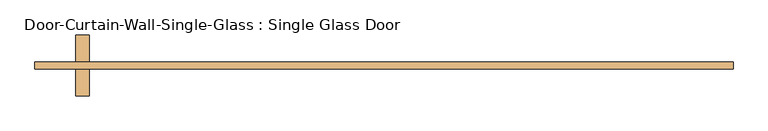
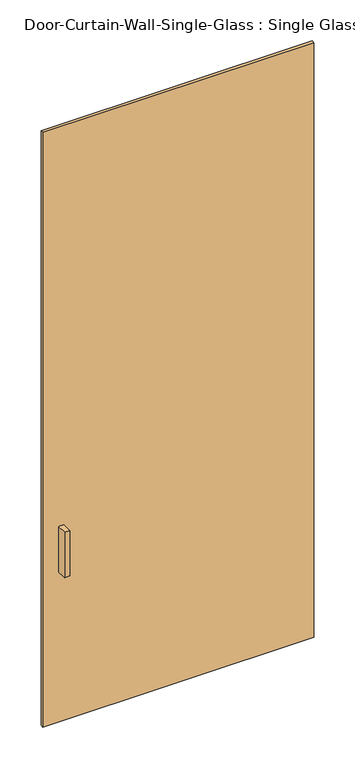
"""IFC4 building model written with IfcOpenShell, lengths in millimetres: door geometry, Door-Curtain-Wall-Single-Glass : Single Glass Door."""

import ifcopenshell
import ifcopenshell.guid

model = None  # the IFC model being written
_history = None  # IfcOwnerHistory: only IFC2X3 demands one
_inside = {}  # id of a spatial element -> (the spatial element, [elements in it])
_under = {}  # id of a project, library or spatial element -> (it, [spatial elements below it])
_declared = {}  # id of a project -> (the project, [libraries it declares])
_typed = {}  # id of a type object -> (the type object, [elements of that type])
_made_of = {}  # id of a material, layer set ... -> (it, [elements and type objects made of it])


def new_model(schema):
    """Start an empty IFC model of exactly this schema.

    Asked for "IFC4X3", IfcOpenShell would pick the latest addendum, in which some entities
    have other attributes; the version numbers below select the first issue.
    IFC2X3 requires an IfcOwnerHistory on every rooted entity: one is made here for all.
    """
    global model, _history
    if schema == "IFC4X3":
        model = ifcopenshell.file(schema_version=(4, 3, 0, 0))
    else:
        model = ifcopenshell.file(schema=schema)
    _inside.clear()
    _under.clear()
    _declared.clear()
    _typed.clear()
    _made_of.clear()
    _history = None
    if model.schema == "IFC2X3":
        org = make("IfcOrganization", Name="unknown")
        user = make(
            "IfcPersonAndOrganization",
            ThePerson=make("IfcPerson", FamilyName="unknown"),
            TheOrganization=org,
        )
        app = make(
            "IfcApplication",
            ApplicationDeveloper=org,
            Version="unknown",
            ApplicationFullName="unknown",
            ApplicationIdentifier="unknown",
        )
        _history = make(
            "IfcOwnerHistory",
            OwningUser=user,
            OwningApplication=app,
            ChangeAction="ADDED",
            CreationDate=0,
        )
    return model


def make(cls, **values):
    """One entity of the class cls with the attributes given. An attribute that is None is left unset."""
    return model.create_entity(
        cls, **{name: value for name, value in values.items() if value is not None}
    )


def rooted(cls, **values):
    """An entity with a GlobalId (a new one), such as an element, a storey or a relation."""
    return make(cls, GlobalId=ifcopenshell.guid.new(), OwnerHistory=_history, **values)


def si_unit(unit_type, name, prefix=None):
    """IfcSIUnit, for example si_unit("LENGTHUNIT", "METRE", prefix="MILLI")."""
    return make("IfcSIUnit", UnitType=unit_type, Prefix=prefix, Name=name)


def assignment(units):
    """IfcUnitAssignment: the units of a project."""
    return None if units is None else make("IfcUnitAssignment", Units=units)


def point(xyz):
    """IfcCartesianPoint."""
    return None if xyz is None else make("IfcCartesianPoint", Coordinates=xyz)


def direction(xyz):
    """IfcDirection."""
    return None if xyz is None else make("IfcDirection", DirectionRatios=xyz)


def frame(location, z_axis=None, x_axis=None):
    """IfcAxis2Placement3D, a coordinate frame: its origin and axes. An axis left out is left unset."""
    return make(
        "IfcAxis2Placement3D",
        Location=point(location),
        Axis=direction(z_axis),
        RefDirection=direction(x_axis),
    )


def origin():
    """The frame at (0, 0, 0) with its axes left unset."""
    return frame((0.0, 0.0, 0.0))


def origin_with_axes():
    """The frame at (0, 0, 0) with the z axis (0, 0, 1) and the x axis (1, 0, 0) written out."""
    return frame((0.0, 0.0, 0.0), z_axis=(0.0, 0.0, 1.0), x_axis=(1.0, 0.0, 0.0))


def place(relative_to, where):
    """IfcLocalPlacement: puts the frame where relative to a parent placement (None: the world)."""
    return make(
        "IfcLocalPlacement", PlacementRelTo=relative_to, RelativePlacement=where
    )


def context(
    kind, dimensions, precision=None, world=None, true_north=None, identifier=None
):
    """IfcGeometricRepresentationContext, for example the 3D "Model" context."""
    return make(
        "IfcGeometricRepresentationContext",
        ContextIdentifier=identifier,
        ContextType=kind,
        CoordinateSpaceDimension=dimensions,
        Precision=precision,
        WorldCoordinateSystem=world,
        TrueNorth=true_north,
    )


def project(units=None, contexts=None):
    """IfcProject with its units and contexts."""
    return rooted(
        "IfcProject",
        Name="project",
        RepresentationContexts=contexts,
        UnitsInContext=assignment(units),
    )


def spatial(cls, under=None, at=None, **own):
    """A site, building, storey or space (cls), placed at a placement, below another one or the project."""
    s = rooted(cls, ObjectPlacement=at, **own)
    if under is not None:
        _under.setdefault(under.id(), (under, []))[1].append(s)
    return s


def polyline(points):
    """IfcPolyline through the points."""
    return make("IfcPolyline", Points=[point(p) for p in points])


def outline(outer, holes=None, kind="AREA"):
    """IfcArbitraryClosedProfileDef: a profile drawn as a closed curve; with holes, ...WithVoids."""
    if holes is None:
        return make("IfcArbitraryClosedProfileDef", ProfileType=kind, OuterCurve=outer)
    return make(
        "IfcArbitraryProfileDefWithVoids",
        ProfileType=kind,
        OuterCurve=outer,
        InnerCurves=holes,
    )


def extrude(swept, where, along, depth):
    """IfcExtrudedAreaSolid: the profile swept, set in the frame where, extruded along a direction by depth."""
    return make(
        "IfcExtrudedAreaSolid",
        SweptArea=swept,
        Position=where,
        ExtrudedDirection=direction(along),
        Depth=depth,
    )


def shape(context_of_items, identifier, shape_type, items):
    """IfcShapeRepresentation: the items that make up one representation, for example the "Body"."""
    return make(
        "IfcShapeRepresentation",
        ContextOfItems=context_of_items,
        RepresentationIdentifier=identifier,
        RepresentationType=shape_type,
        Items=items,
    )


def source(mapping_origin, context_of_items, identifier, shape_type, items):
    """IfcRepresentationMap: a shape defined once, which mapped items show again and again."""
    return make(
        "IfcRepresentationMap",
        MappingOrigin=mapping_origin,
        MappedRepresentation=shape(context_of_items, identifier, shape_type, items),
    )


def transform(
    local_origin,
    x_axis=None,
    y_axis=None,
    z_axis=None,
    scale=None,
    scale2=None,
    scale3=None,
    uniform=True,
):
    """IfcCartesianTransformationOperator3D, or its non-uniform kind. x_axis, y_axis, z_axis: its Axis1, 2, 3."""
    if uniform:
        return make(
            "IfcCartesianTransformationOperator3D",
            Axis1=direction(x_axis),
            Axis2=direction(y_axis),
            LocalOrigin=point(local_origin),
            Scale=scale,
            Axis3=direction(z_axis),
        )
    return make(
        "IfcCartesianTransformationOperator3DnonUniform",
        Axis1=direction(x_axis),
        Axis2=direction(y_axis),
        LocalOrigin=point(local_origin),
        Scale=scale,
        Axis3=direction(z_axis),
        Scale2=scale2,
        Scale3=scale3,
    )


def mapped(mapping_source, mapping_target):
    """IfcMappedItem: shows the shape of a source again, moved by a transform."""
    return make(
        "IfcMappedItem", MappingSource=mapping_source, MappingTarget=mapping_target
    )


def made_of(thing, what):
    """Note that an element or type object is made of a material, layer set ...; save() writes the relation."""
    if what is not None:
        _made_of.setdefault(what.id(), (what, []))[1].append(thing)
    return thing


def element(
    cls,
    number,
    at=None,
    inside=None,
    cuts=None,
    type_object=None,
    material=None,
    context=None,
    identifier="Body",
    shape_type=None,
    held_by="IfcProductDefinitionShape",
    body=None,
    shapes=None,
    **own,
):
    """One element of the class cls, such as IfcWall. Its Tag is "e" and its number.

    at: its placement. inside: the storey or other place that contains it. cuts: it is an
    opening in that element (IfcRelVoidsElement). A single representation is given by context,
    identifier, shape_type and body (its items); several are given by shapes. held_by: the class
    of the entity that holds the representations. save() writes the other relations.
    """
    e = rooted(cls, Tag="e%d" % number, ObjectPlacement=at, **own)
    if body is not None:
        shapes = [shape(context, identifier, shape_type, body)]
    if shapes is not None:
        e.Representation = make(held_by, Representations=shapes)
    if inside is not None:
        _inside.setdefault(inside.id(), (inside, []))[1].append(e)
    if cuts is not None:
        rooted(
            "IfcRelVoidsElement", RelatingBuildingElement=cuts, RelatedOpeningElement=e
        )
    if type_object is not None:
        _typed.setdefault(type_object.id(), (type_object, []))[1].append(e)
    return made_of(e, material)


def aggregate(whole, parts):
    """IfcRelAggregates: a whole, such as a stair, and the parts it consists of."""
    return rooted("IfcRelAggregates", RelatingObject=whole, RelatedObjects=parts)


def save(model, path):
    """Write the relations noted so far, then the file.

    IfcRelAggregates (storeys below a building ...), IfcRelContainedInSpatialStructure (elements
    in a storey), IfcRelDefinesByType, IfcRelAssociatesMaterial and IfcRelDeclares: one each for
    every whole, place, type object, material and project.
    """
    for whole, parts in _under.values():
        aggregate(whole, parts)
    for where, things in _inside.values():
        rooted(
            "IfcRelContainedInSpatialStructure",
            RelatedElements=things,
            RelatingStructure=where,
        )
    for kind, things in _typed.values():
        rooted("IfcRelDefinesByType", RelatedObjects=things, RelatingType=kind)
    for what, things in _made_of.values():
        rooted("IfcRelAssociatesMaterial", RelatedObjects=things, RelatingMaterial=what)
    for by, libraries in _declared.values():
        rooted("IfcRelDeclares", RelatingContext=by, RelatedDefinitions=libraries)
    model.write(path)


def door_curtain_wall_single_glass_single_glass_door_5332a5ac(model_context):
    return source(origin(), model_context, "Body", "SweptSolid", [
        extrude(outline(polyline([(650.0467279, 50.8), (650.0467279, 38.1), (-650.0467279, 38.1), (-650.0467279, 50.8), (650.0467279, 50.8)])), origin_with_axes(), (0.0, 0.0, 1.0), 3016.25),
        extrude(outline(polyline([(-548.4467279, -12.7), (-573.8467279, -12.7), (-573.8467279, 38.1), (-548.4467279, 38.1), (-548.4467279, -12.7)])), frame((0.0, 0.0, 762.0), z_axis=(0.0, 0.0, 1.0), x_axis=(1.0, 0.0, 0.0)), (0.0, 0.0, 1.0), 228.6),
        extrude(outline(polyline([(-573.8467279, 101.6), (-548.4467279, 101.6), (-548.4467279, 50.8), (-573.8467279, 50.8), (-573.8467279, 101.6)])), frame((0.0, 0.0, 762.0), z_axis=(0.0, 0.0, 1.0), x_axis=(1.0, 0.0, 0.0)), (0.0, 0.0, 1.0), 228.6),
    ])


if __name__ == "__main__":
    model = new_model("IFC4")
    model_context = context("Model", 3, world=origin())
    ifc_project = project(units=[si_unit("LENGTHUNIT", "METRE", prefix="MILLI")], contexts=[model_context])
    site = spatial("IfcSite", under=ifc_project)
    building = spatial("IfcBuilding", under=site)
    placement = place(None, origin())
    door_curtain_wall_single_glass_single_glass_door_shape = door_curtain_wall_single_glass_single_glass_door_5332a5ac(model_context)
    element("IfcDoor", 1, ObjectType="Door-Curtain-Wall-Single-Glass : Single Glass Door", at=placement, inside=building, context=model_context, shape_type="MappedRepresentation", body=[
        mapped(door_curtain_wall_single_glass_single_glass_door_shape, transform((0.0, 0.0, 0.0), x_axis=(1.0, 0.0, 0.0), y_axis=(0.0, 1.0, 0.0), z_axis=(0.0, 0.0, 1.0))),
    ])
    save(model, "model.ifc")
